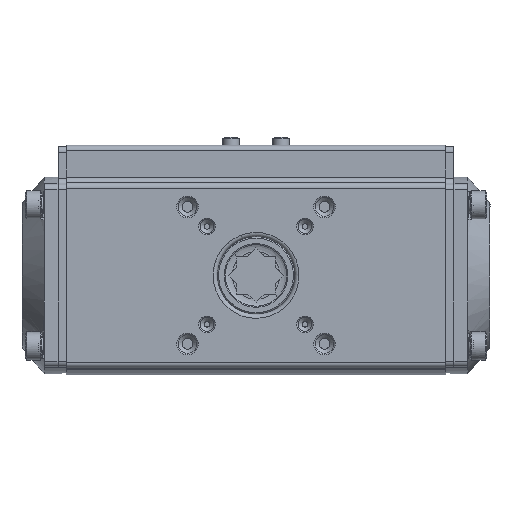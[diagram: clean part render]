
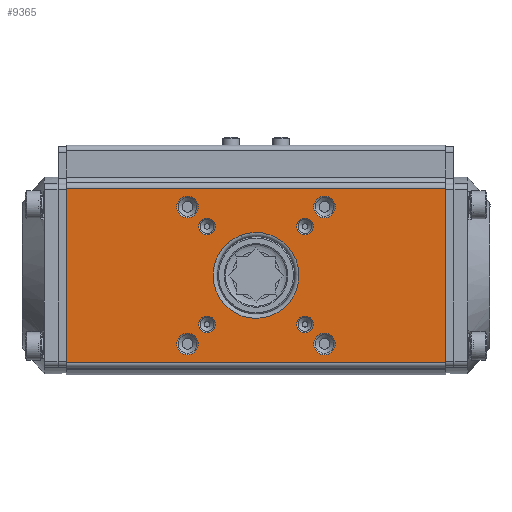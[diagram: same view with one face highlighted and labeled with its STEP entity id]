
A CAD part, front view. The second image highlights one B-rep face of the part: STEP entity #9365.
In plain terms, the highlighted planar face has unit normal (0, -1, 0).
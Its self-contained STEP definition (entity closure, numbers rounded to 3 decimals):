
#9365=ADVANCED_FACE('',(#23605,#23607,#23609,#23611,#23613,#23615,#23617,#23619,
#23621,#23623),#23625,.T.);
#23605=FACE_BOUND('',#23606,.T.);
#23606=EDGE_LOOP('',(#30246,#30247,#30248,#30249));
#23607=FACE_BOUND('',#23608,.T.);
#23608=EDGE_LOOP('',(#30250));
#23609=FACE_BOUND('',#23610,.T.);
#23610=EDGE_LOOP('',(#30251));
#23611=FACE_BOUND('',#23612,.T.);
#23612=EDGE_LOOP('',(#30252));
#23613=FACE_BOUND('',#23614,.T.);
#23614=EDGE_LOOP('',(#30253));
#23615=FACE_BOUND('',#23616,.T.);
#23616=EDGE_LOOP('',(#30254));
#23617=FACE_BOUND('',#23618,.T.);
#23618=EDGE_LOOP('',(#30255));
#23619=FACE_BOUND('',#23620,.T.);
#23620=EDGE_LOOP('',(#30256));
#23621=FACE_BOUND('',#23622,.T.);
#23622=EDGE_LOOP('',(#30257));
#23623=FACE_BOUND('',#23624,.T.);
#23624=EDGE_LOOP('',(#30258));
#23625=PLANE('',#23626);
#23626=AXIS2_PLACEMENT_3D('',#23627,#23628,#23629);
#23627=CARTESIAN_POINT('',(-33.5,-44.,-68.5));
#23628=DIRECTION('',(0.,-1.,0.));
#23629=DIRECTION('',(0.,0.,-1.));
#30246=ORIENTED_EDGE('',*,*,#32796,.T.);
#30247=ORIENTED_EDGE('',*,*,#32846,.T.);
#30248=ORIENTED_EDGE('',*,*,#32841,.F.);
#30249=ORIENTED_EDGE('',*,*,#32847,.T.);
#30250=ORIENTED_EDGE('',*,*,#32691,.T.);
#30251=ORIENTED_EDGE('',*,*,#32693,.T.);
#30252=ORIENTED_EDGE('',*,*,#32695,.T.);
#30253=ORIENTED_EDGE('',*,*,#32697,.T.);
#30254=ORIENTED_EDGE('',*,*,#32699,.T.);
#30255=ORIENTED_EDGE('',*,*,#32701,.T.);
#30256=ORIENTED_EDGE('',*,*,#32703,.T.);
#30257=ORIENTED_EDGE('',*,*,#32705,.T.);
#30258=ORIENTED_EDGE('',*,*,#32584,.F.);
#32584=EDGE_CURVE('',#35518,#35518,#35519,.T.);
#32691=EDGE_CURVE('',#35715,#35715,#35716,.T.);
#32693=EDGE_CURVE('',#35719,#35719,#35720,.T.);
#32695=EDGE_CURVE('',#35723,#35723,#35724,.T.);
#32697=EDGE_CURVE('',#35727,#35727,#35728,.T.);
#32699=EDGE_CURVE('',#35731,#35731,#35732,.T.);
#32701=EDGE_CURVE('',#35735,#35735,#35736,.T.);
#32703=EDGE_CURVE('',#35739,#35739,#35740,.T.);
#32705=EDGE_CURVE('',#35743,#35743,#35744,.T.);
#32796=EDGE_CURVE('',#35915,#35913,#35916,.T.);
#32841=EDGE_CURVE('',#36003,#36005,#36006,.T.);
#32846=EDGE_CURVE('',#35913,#36005,#36014,.T.);
#32847=EDGE_CURVE('',#36003,#35915,#36015,.T.);
#35518=VERTEX_POINT('',#57827);
#35519=CIRCLE('',#57828,15.5);
#35715=VERTEX_POINT('',#62734);
#35716=CIRCLE('',#62735,3.9);
#35719=VERTEX_POINT('',#62845);
#35720=CIRCLE('',#62846,3.);
#35723=VERTEX_POINT('',#62956);
#35724=CIRCLE('',#62957,3.);
#35727=VERTEX_POINT('',#63067);
#35728=CIRCLE('',#63068,3.9);
#35731=VERTEX_POINT('',#63178);
#35732=CIRCLE('',#63179,3.);
#35735=VERTEX_POINT('',#63289);
#35736=CIRCLE('',#63290,3.9);
#35739=VERTEX_POINT('',#63400);
#35740=CIRCLE('',#63401,3.);
#35743=VERTEX_POINT('',#63511);
#35744=CIRCLE('',#63512,3.9);
#35913=VERTEX_POINT('',#67144);
#35915=VERTEX_POINT('',#67149);
#35916=LINE('',#67150,#67151);
#36003=VERTEX_POINT('',#67348);
#36005=VERTEX_POINT('',#67353);
#36006=LINE('',#67354,#67355);
#36014=LINE('',#67375,#67376);
#36015=LINE('',#67378,#67379);
#57827=CARTESIAN_POINT('',(0.307,-44.,-15.497));
#57828=AXIS2_PLACEMENT_3D('',#57829,#57830,#57831);
#57829=CARTESIAN_POINT('',(0.,-44.,0.));
#57830=DIRECTION('',(0.,-1.,0.));
#57831=DIRECTION('',(0.,0.,-1.));
#62734=CARTESIAN_POINT('',(-24.749,-44.,20.849));
#62735=AXIS2_PLACEMENT_3D('',#62736,#62737,#62738);
#62736=CARTESIAN_POINT('',(-24.749,-44.,24.749));
#62737=DIRECTION('',(0.,1.,0.));
#62738=DIRECTION('',(0.,0.,-1.));
#62845=CARTESIAN_POINT('',(-17.678,-44.,14.678));
#62846=AXIS2_PLACEMENT_3D('',#62847,#62848,#62849);
#62847=CARTESIAN_POINT('',(-17.678,-44.,17.678));
#62848=DIRECTION('',(0.,1.,0.));
#62849=DIRECTION('',(0.,0.,-1.));
#62956=CARTESIAN_POINT('',(-17.678,-44.,-20.678));
#62957=AXIS2_PLACEMENT_3D('',#62958,#62959,#62960);
#62958=CARTESIAN_POINT('',(-17.678,-44.,-17.678));
#62959=DIRECTION('',(0.,1.,0.));
#62960=DIRECTION('',(0.,0.,-1.));
#63067=CARTESIAN_POINT('',(-24.749,-44.,-28.649));
#63068=AXIS2_PLACEMENT_3D('',#63069,#63070,#63071);
#63069=CARTESIAN_POINT('',(-24.749,-44.,-24.749));
#63070=DIRECTION('',(0.,1.,0.));
#63071=DIRECTION('',(0.,0.,-1.));
#63178=CARTESIAN_POINT('',(17.678,-44.,14.678));
#63179=AXIS2_PLACEMENT_3D('',#63180,#63181,#63182);
#63180=CARTESIAN_POINT('',(17.678,-44.,17.678));
#63181=DIRECTION('',(0.,1.,0.));
#63182=DIRECTION('',(0.,0.,-1.));
#63289=CARTESIAN_POINT('',(24.749,-44.,20.849));
#63290=AXIS2_PLACEMENT_3D('',#63291,#63292,#63293);
#63291=CARTESIAN_POINT('',(24.749,-44.,24.749));
#63292=DIRECTION('',(0.,1.,0.));
#63293=DIRECTION('',(0.,0.,-1.));
#63400=CARTESIAN_POINT('',(17.678,-44.,-20.678));
#63401=AXIS2_PLACEMENT_3D('',#63402,#63403,#63404);
#63402=CARTESIAN_POINT('',(17.678,-44.,-17.678));
#63403=DIRECTION('',(0.,1.,0.));
#63404=DIRECTION('',(0.,0.,-1.));
#63511=CARTESIAN_POINT('',(24.749,-44.,-28.649));
#63512=AXIS2_PLACEMENT_3D('',#63513,#63514,#63515);
#63513=CARTESIAN_POINT('',(24.749,-44.,-24.749));
#63514=DIRECTION('',(0.,1.,0.));
#63515=DIRECTION('',(0.,0.,-1.));
#67144=CARTESIAN_POINT('',(31.5,-44.,-68.5));
#67149=CARTESIAN_POINT('',(-31.5,-44.,-68.5));
#67150=CARTESIAN_POINT('',(-31.5,-44.,-68.5));
#67151=VECTOR('',#67152,1.);
#67152=DIRECTION('',(1.,0.,0.));
#67348=CARTESIAN_POINT('',(-31.5,-44.,68.5));
#67353=CARTESIAN_POINT('',(31.5,-44.,68.5));
#67354=CARTESIAN_POINT('',(-31.5,-44.,68.5));
#67355=VECTOR('',#67356,1.);
#67356=DIRECTION('',(1.,0.,0.));
#67375=CARTESIAN_POINT('',(31.5,-44.,-68.5));
#67376=VECTOR('',#67377,1.);
#67377=DIRECTION('',(0.,0.,1.));
#67378=CARTESIAN_POINT('',(-31.5,-44.,68.5));
#67379=VECTOR('',#67380,1.);
#67380=DIRECTION('',(0.,0.,-1.));
